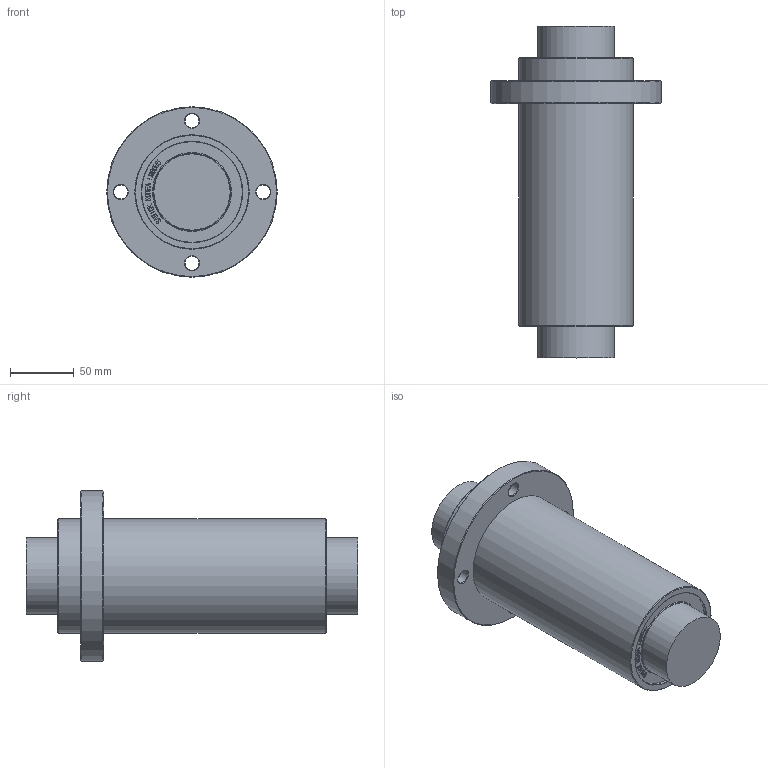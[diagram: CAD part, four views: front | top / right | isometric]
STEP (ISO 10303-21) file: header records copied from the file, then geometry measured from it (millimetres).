
FILE_DESCRIPTION(/* description */ (''),/* implementation_level */ '2;1');
FILE_NAME(/* name */ 'W:\(01) 2024년 홈페이지 CAD파일 최신화\LMEFP_L\IPT\LMEF60LUU.stp',/* time_stamp */ '2025-01-25T11:49:41+09:00',/* author */ ('서우현'),/* organization */ (''),/* preprocessor_version */ 'ST-DEVELOPER v17.2',/* originating_system */ 'Autodesk Inventor 2019',/* authorisation */ '');
FILE_SCHEMA (('AUTOMOTIVE_DESIGN { 1 0 10303 214 3 1 1 }'));
Length unit declared in the file: millimetre
Products named in the file (1): LM5
Bounding box: 134 x 261 x 134 mm (x, y, z)
Volume: 1600203.4 mm3; surface area: 103789.6 mm2
Topology: 1 solids, 1 shells, 853 faces, 2397 edges, 1604 vertices
Faces by surface type: bspline 600, plane 222, cylinder 15, cone 14, torus 2
Full cylindrical faces by diameter (mm): 11 x4, 17.5 x4, 60 x2, 79.2 x2, 90 x2, 134 x1
Entity records: 29397 total; most frequent: CARTESIAN_POINT 10971, ORIENTED_EDGE 4794, EDGE_CURVE 2397, DIRECTION 1787, VERTEX_POINT 1604, B_SPLINE_CURVE_WITH_KNOTS 1200, LINE 1115, VECTOR 1115
